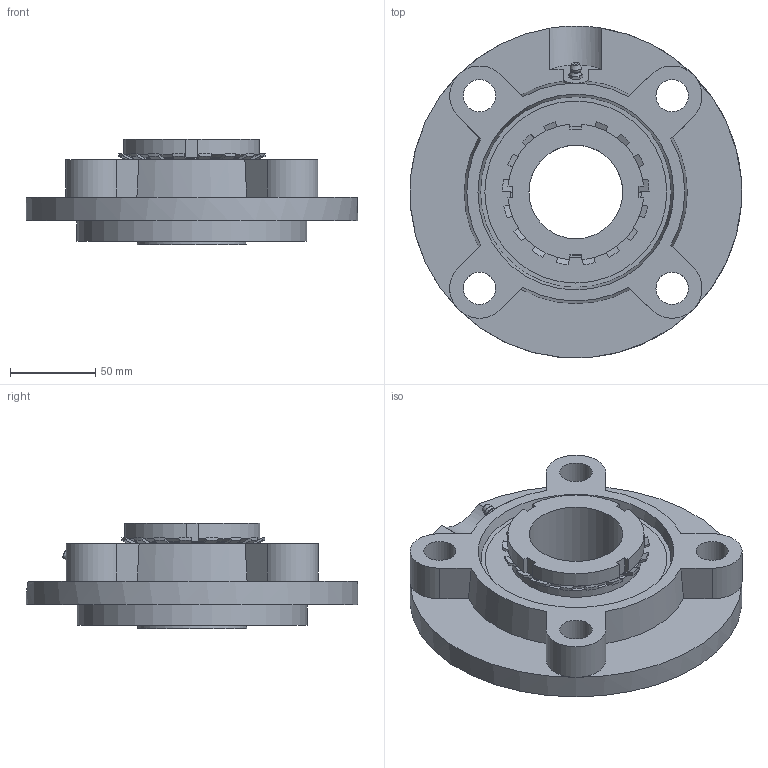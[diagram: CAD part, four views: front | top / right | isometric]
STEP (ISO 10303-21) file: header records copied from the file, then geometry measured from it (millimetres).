
FILE_DESCRIPTION((''),'2;1');
FILE_NAME('\\Ts-tgl068\j-cad-d-base\00.3DCADデータ作成フォルダ\02.フランジ形\UKFC200\UKFC212+H.stp','2014-11-20T16:42:56',('btec_1106_2'),(''),'Autodesk Inventor 2012','Autodesk Inventor 2012','');
FILE_SCHEMA(('AUTOMOTIVE_DESIGN { 1 0 10303 214 1 1 1 1 }'));
Length unit declared in the file: millimetre
Products named in the file (4): UKFC200+H; FC212; UK212; GU1
Assembly tree (3 placements, depth 2):
  UKFC200+H
    FC212
    UK212
    GU1
Bounding box: 194.77 x 194.85 x 62 mm (x, y, z)
Volume: 693603 mm3; surface area: 139249 mm2
Topology: 3 solids, 3 shells, 206 faces, 525 edges, 334 vertices
Faces by surface type: plane 90, cylinder 54, cone 54, sphere 4, bspline 2, torus 2
Full cylindrical faces by diameter (mm): 5.359 x1, 6.35 x1, 19 x4, 55 x1, 60 x1, 77 x2, 135 x1, 195 x1
Entity records: 6166 total; most frequent: CARTESIAN_POINT 1362, ORIENTED_EDGE 984, DIRECTION 983, EDGE_CURVE 492, AXIS2_PLACEMENT_3D 397, VERTEX_POINT 321, EDGE_LOOP 253, FACE_OUTER_BOUND 206
